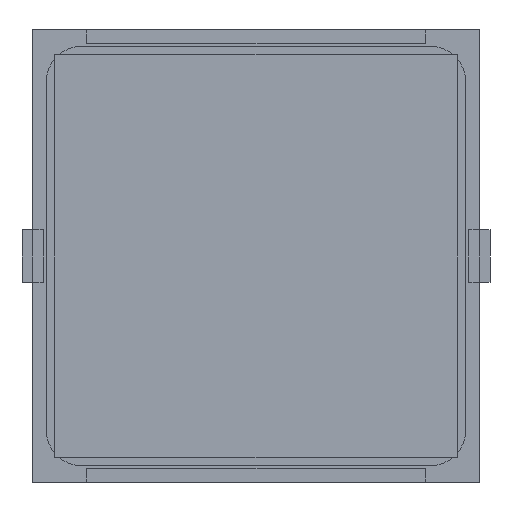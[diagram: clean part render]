
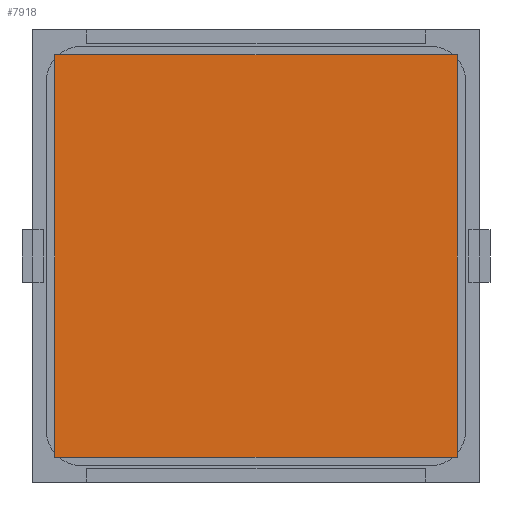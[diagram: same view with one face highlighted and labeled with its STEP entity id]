
A CAD part, front view. The second image highlights one B-rep face of the part: STEP entity #7918.
In plain terms, the highlighted planar face has unit normal (0, -1, 0).
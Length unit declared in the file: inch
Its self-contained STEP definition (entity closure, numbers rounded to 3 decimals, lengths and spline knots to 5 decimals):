
#428 = EDGE_CURVE ( 'NONE', #6579, #10842, #8155, .T. ) ;
#483 = CARTESIAN_POINT ( 'NONE',  ( 0.74803, -0.005, -0.74803 ) ) ;
#510 = VECTOR ( 'NONE', #3530, 39.37008 ) ;
#586 = LINE ( 'NONE', #1412, #1293 ) ;
#1293 = VECTOR ( 'NONE', #4383, 39.37008 ) ;
#1315 = AXIS2_PLACEMENT_3D ( 'NONE', #1628, #2676, #8274 ) ;
#1412 = CARTESIAN_POINT ( 'NONE',  ( 0.74803, -0.005, -0.74803 ) ) ;
#1623 = VECTOR ( 'NONE', #6015, 39.37008 ) ;
#1628 = CARTESIAN_POINT ( 'NONE',  ( -0.74803, -0.005, 0.74803 ) ) ;
#2326 = CARTESIAN_POINT ( 'NONE',  ( -0.74803, -0.005, 0.74803 ) ) ;
#2464 = CARTESIAN_POINT ( 'NONE',  ( 0.74803, -0.005, 0.74803 ) ) ;
#2676 = DIRECTION ( 'NONE',  ( 0., 1., 0. ) ) ;
#2874 = ORIENTED_EDGE ( 'NONE', *, *, #10675, .F. ) ;
#2886 = VERTEX_POINT ( 'NONE', #2464 ) ;
#3420 = CARTESIAN_POINT ( 'NONE',  ( -0.74803, -0.005, -0.74803 ) ) ;
#3530 = DIRECTION ( 'NONE',  ( -1., 0., 0. ) ) ;
#3755 = CARTESIAN_POINT ( 'NONE',  ( -0.74803, -0.005, 0.74803 ) ) ;
#3792 = CARTESIAN_POINT ( 'NONE',  ( -0.74803, -0.005, -0.74803 ) ) ;
#3819 = ORIENTED_EDGE ( 'NONE', *, *, #10469, .F. ) ;
#4383 = DIRECTION ( 'NONE',  ( 0., 0., -1. ) ) ;
#4746 = VECTOR ( 'NONE', #11243, 39.37008 ) ;
#5431 = FACE_OUTER_BOUND ( 'NONE', #6985, .T. ) ;
#6015 = DIRECTION ( 'NONE',  ( 1., 0., 0. ) ) ;
#6205 = LINE ( 'NONE', #2326, #1623 ) ;
#6579 = VERTEX_POINT ( 'NONE', #483 ) ;
#6985 = EDGE_LOOP ( 'NONE', ( #2874, #11789, #10982, #3819 ) ) ;
#7566 = EDGE_CURVE ( 'NONE', #2886, #6579, #586, .T. ) ;
#7918 = ADVANCED_FACE ( 'NONE', ( #5431 ), #11027, .F. ) ;
#8155 = LINE ( 'NONE', #11888, #510 ) ;
#8274 = DIRECTION ( 'NONE',  ( 0., 0., 1. ) ) ;
#8421 = LINE ( 'NONE', #3792, #4746 ) ;
#8958 = VERTEX_POINT ( 'NONE', #3755 ) ;
#10469 = EDGE_CURVE ( 'NONE', #8958, #2886, #6205, .T. ) ;
#10675 = EDGE_CURVE ( 'NONE', #10842, #8958, #8421, .T. ) ;
#10842 = VERTEX_POINT ( 'NONE', #3420 ) ;
#10982 = ORIENTED_EDGE ( 'NONE', *, *, #7566, .F. ) ;
#11027 = PLANE ( 'NONE',  #1315 ) ;
#11243 = DIRECTION ( 'NONE',  ( 0., 0., 1. ) ) ;
#11789 = ORIENTED_EDGE ( 'NONE', *, *, #428, .F. ) ;
#11888 = CARTESIAN_POINT ( 'NONE',  ( -0.74803, -0.005, -0.74803 ) ) ;
